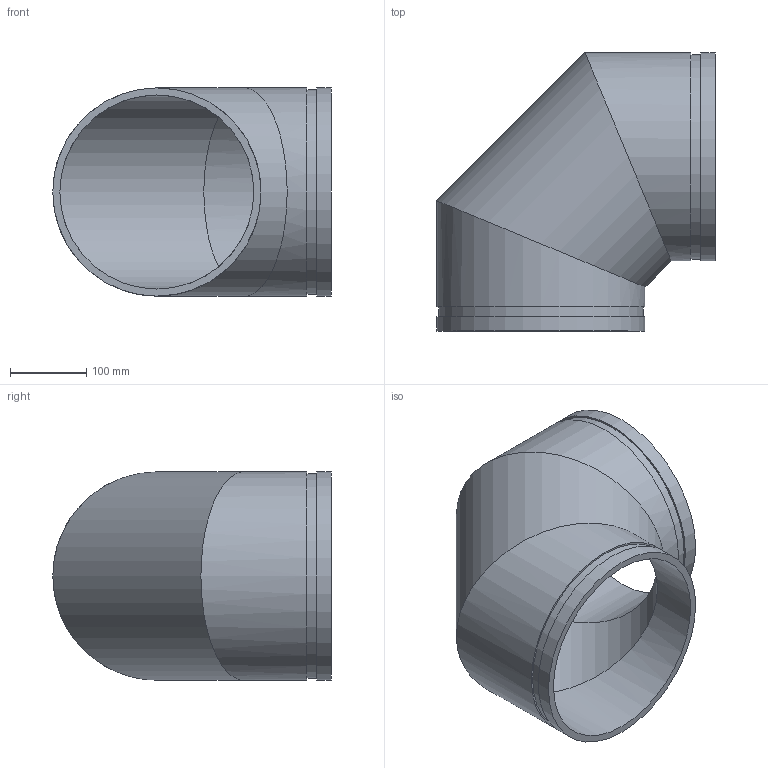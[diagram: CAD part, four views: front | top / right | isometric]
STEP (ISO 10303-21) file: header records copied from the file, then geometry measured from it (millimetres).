
FILE_DESCRIPTION(/* description */ ('VIC 90 DEG ELBOW FABRICATED No 10 SWS (OGS)','CAx-IF Rec.Pracs.---Representation and Presentation of Product Manufacturing Information (PMI)---4.0---2014-10-13'),/* implementation_level */ '2;1');
FILE_NAME(/* name */ 'C:\Users\kkamble\AppData\Roaming\Autodesk\ApplicationPlugins\Back Up\Victaulic_IPS_Elbow 90 Deg_No 10 SWS (OGS)\Victaulic_IPS_Elbow 90 Deg_No 10 SWS (OGS)_10 (250).stp',/* time_stamp */ '2020-09-16T22:18:00+06:00',/* author */ ('cgray'),/* organization */ ('Victaulic'),/* preprocessor_version */ 'ST-DEVELOPER v17.2',/* originating_system */ 'Autodesk Inventor 2019',/* authorisation */ '');
FILE_SCHEMA (('AP242_MANAGED_MODEL_BASED_3D_ENGINEERING_MIM_LF { 1 0 10303 442 1 1 4 }'));
Length unit declared in the file: inch
Products named in the file (1): 10 SWS-10.0
Bounding box: 365.12 x 365.12 x 273.05 mm (x, y, z)
Volume: 2946584.8 mm3; surface area: 669886 mm2
Topology: 1 solids, 1 shells, 16 faces, 38 edges, 28 vertices
Faces by surface type: cylinder 10, plane 6
Full cylindrical faces by diameter (mm): 254.508 x3, 268.275 x2, 273.05 x5
Entity records: 646 total; most frequent: DIRECTION 126, CARTESIAN_POINT 100, ORIENTED_EDGE 76, AXIS2_PLACEMENT_3D 58, EDGE_CURVE 38, VERTEX_POINT 28, EDGE_LOOP 22, STYLED_ITEM 18
